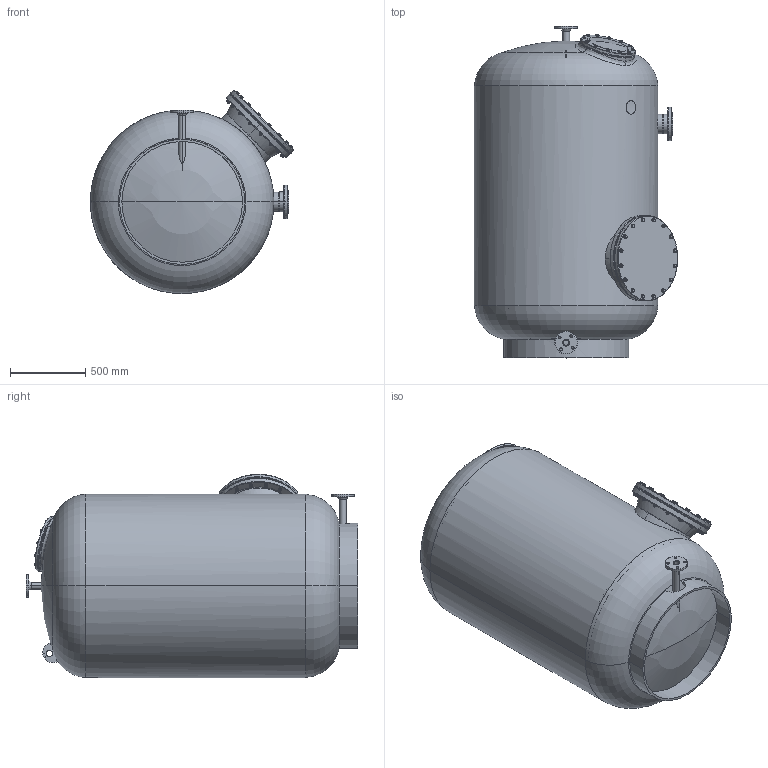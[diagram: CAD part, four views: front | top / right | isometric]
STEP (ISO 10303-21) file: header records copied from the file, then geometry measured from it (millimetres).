
FILE_DESCRIPTION (( 'STEP AP214' ), '1' );
FILE_NAME ('adriatic120c.STEP', '2020-11-04T10:08:08', ( '' ), ( '' ), 'SwSTEP 2.0', 'SolidWorks 2019', '' );
FILE_SCHEMA (( 'AUTOMOTIVE_DESIGN' ));
Length unit declared in the file: millimetre
Products named in the file (1): adriatic120c
Bounding box: 1346.29 x 2199.65 x 1345.95 mm (x, y, z)
Surface area: 20287131.3 mm2 (no closed solid volume)
Topology: 0 solids, 115 shells, 1761 faces, 3923 edges, 2400 vertices
Faces by surface type: cone 581, cylinder 553, plane 526, torus 71, bspline 16, sphere 14
Entity records: 98977 total; most frequent: CARTESIAN_POINT 40640, ORIENTED_EDGE 7726, DIRECTION 7672, EDGE_CURVE 3887, AXIS2_PLACEMENT_3D 3304, VERTEX_POINT 2396, EDGE_LOOP 2117, UNCERTAINTY_MEASURE_WITH_UNIT 1866
